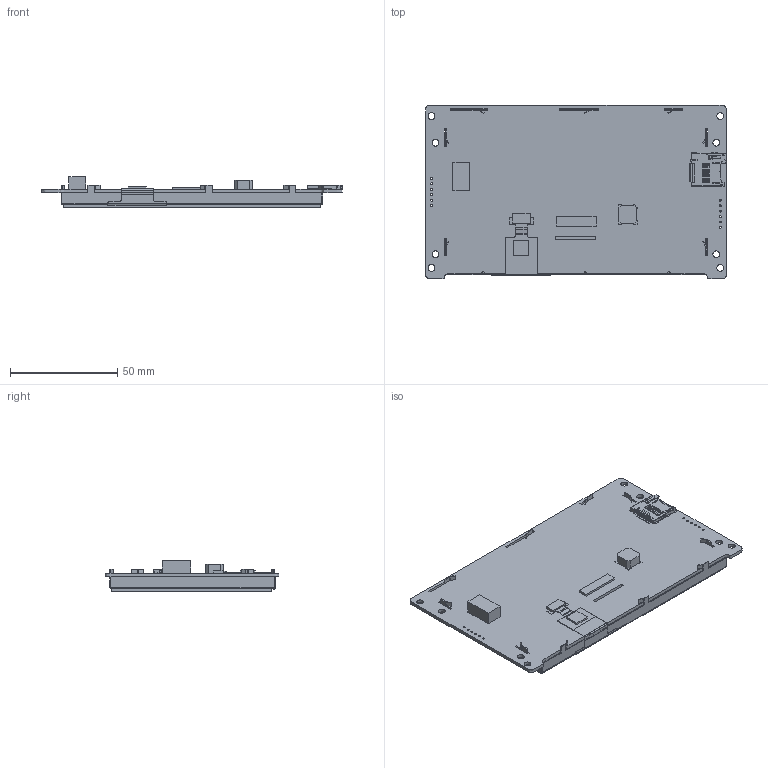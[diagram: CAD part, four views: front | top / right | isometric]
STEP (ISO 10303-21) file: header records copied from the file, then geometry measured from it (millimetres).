
FILE_DESCRIPTION(/* description */ (''),/* implementation_level */ '2;1');
FILE_NAME(/* name */ '',/* time_stamp */ '2023-08-11T13:58:17+08:00',/* author */ (''),/* organization */ (''),/* preprocessor_version */ 'ST-DEVELOPER v11',/* originating_system */ 'SIEMENS PLM Software NX 7.5',/* authorisation */ '');
FILE_SCHEMA (('AP203_CONFIGURATION_CONTROLLED_3D_DESIGN_OF_MECHANICAL_PARTS_AND_ASSEMBLIES_MIM_LF'));
Length unit declared in the file: millimetre
Products named in the file (1): SDWn050T33C
Bounding box: 140 x 80.9 x 14.41 mm (x, y, z)
Volume: 33831 mm3; surface area: 53769.2 mm2
Topology: 15 solids, 15 shells, 1228 faces, 3495 edges, 2274 vertices
Faces by surface type: plane 926, cylinder 300, cone 1, extrusion 1
Full cylindrical faces by diameter (mm): 0.889 x12, 3.2 x8
Entity records: 40744 total; most frequent: CARTESIAN_POINT 7130, ORIENTED_EDGE 6948, DIRECTION 6530, EDGE_CURVE 3474, VECTOR 2862, LINE 2861, VERTEX_POINT 2274, AXIS2_PLACEMENT_3D 1834
